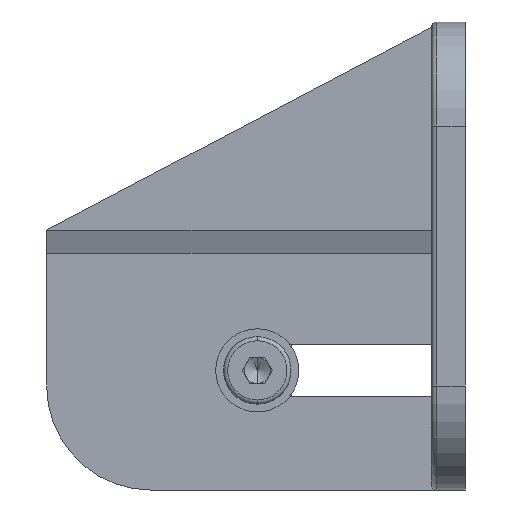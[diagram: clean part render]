
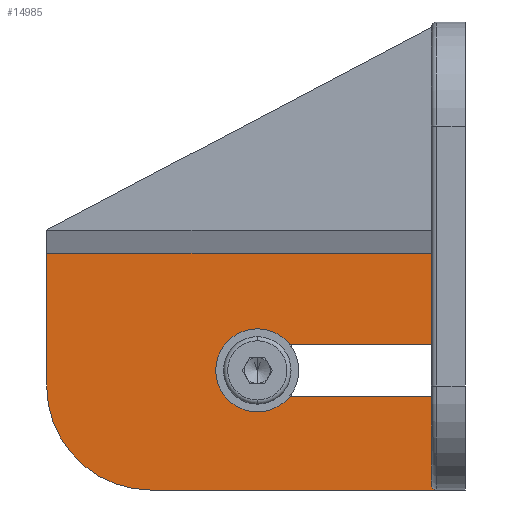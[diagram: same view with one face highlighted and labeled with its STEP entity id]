
A CAD part, left-side view. The second image highlights one B-rep face of the part: STEP entity #14985.
In plain terms, the highlighted planar face has unit normal (-1, 0, 0).
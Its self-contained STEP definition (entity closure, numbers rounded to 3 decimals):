
#88 = DIRECTION ( 'NONE',  ( 1., 0., 0. ) ) ;
#159 = CARTESIAN_POINT ( 'NONE',  ( 616.68, 833.023, 1222.533 ) ) ;
#297 = EDGE_CURVE ( 'NONE', #1584, #11723, #13818, .T. ) ;
#353 = DIRECTION ( 'NONE',  ( 0., -1., 0. ) ) ;
#521 = ORIENTED_EDGE ( 'NONE', *, *, #11757, .F. ) ;
#764 = CIRCLE ( 'NONE', #9571, 20. ) ;
#775 = EDGE_CURVE ( 'NONE', #2598, #11670, #764, .T. ) ;
#873 = FACE_OUTER_BOUND ( 'NONE', #8960, .T. ) ;
#899 = VERTEX_POINT ( 'NONE', #8142 ) ;
#995 = DIRECTION ( 'NONE',  ( 0., 0., -1. ) ) ;
#1131 = CARTESIAN_POINT ( 'NONE',  ( 616.68, 866.523, 1249.533 ) ) ;
#1161 = CARTESIAN_POINT ( 'NONE',  ( 616.68, 866.523, 1244.533 ) ) ;
#1182 = CARTESIAN_POINT ( 'NONE',  ( 616.68, 832.023, 1221.533 ) ) ;
#1361 = ORIENTED_EDGE ( 'NONE', *, *, #297, .T. ) ;
#1584 = VERTEX_POINT ( 'NONE', #1182 ) ;
#1623 = EDGE_CURVE ( 'NONE', #899, #4752, #3718, .T. ) ;
#1769 = DIRECTION ( 'NONE',  ( 0., 1., 0. ) ) ;
#2298 = CARTESIAN_POINT ( 'NONE',  ( 616.68, 833.023, 1249.533 ) ) ;
#2598 = VERTEX_POINT ( 'NONE', #11117 ) ;
#3064 = EDGE_CURVE ( 'NONE', #15265, #899, #9963, .T. ) ;
#3373 = DIRECTION ( 'NONE',  ( -1., 0., 0. ) ) ;
#3686 = CIRCLE ( 'NONE', #10914, 5. ) ;
#3718 = LINE ( 'NONE', #8477, #13407 ) ;
#3841 = VECTOR ( 'NONE', #10859, 1000. ) ;
#4060 = LINE ( 'NONE', #6114, #3841 ) ;
#4264 = CARTESIAN_POINT ( 'NONE',  ( 616.68, 887.023, 1241.533 ) ) ;
#4329 = CARTESIAN_POINT ( 'NONE',  ( 616.68, 907.023, 1267.033 ) ) ;
#4427 = EDGE_CURVE ( 'NONE', #8631, #13504, #3686, .T. ) ;
#4752 = VERTEX_POINT ( 'NONE', #15284 ) ;
#4937 = CARTESIAN_POINT ( 'NONE',  ( 616.68, 832.023, 1222.533 ) ) ;
#5054 = CARTESIAN_POINT ( 'NONE',  ( 616.68, 830.523, 1244.283 ) ) ;
#5081 = VECTOR ( 'NONE', #353, 1000. ) ;
#5174 = ORIENTED_EDGE ( 'NONE', *, *, #14887, .F. ) ;
#5181 = ORIENTED_EDGE ( 'NONE', *, *, #4427, .F. ) ;
#5465 = LINE ( 'NONE', #7474, #11767 ) ;
#5495 = LINE ( 'NONE', #11685, #6874 ) ;
#5693 = PLANE ( 'NONE',  #14508 ) ;
#5734 = AXIS2_PLACEMENT_3D ( 'NONE', #9432, #14225, #15163 ) ;
#5753 = CARTESIAN_POINT ( 'NONE',  ( 616.68, 871.523, 1244.533 ) ) ;
#6114 = CARTESIAN_POINT ( 'NONE',  ( 616.68, 907.023, 1241.533 ) ) ;
#6315 = DIRECTION ( 'NONE',  ( 0., 1., 0. ) ) ;
#6874 = VECTOR ( 'NONE', #12725, 1000. ) ;
#7086 = DIRECTION ( 'NONE',  ( 0., 1., 0. ) ) ;
#7111 = CARTESIAN_POINT ( 'NONE',  ( 616.68, 833.023, 1239.533 ) ) ;
#7193 = VECTOR ( 'NONE', #7086, 1000. ) ;
#7474 = CARTESIAN_POINT ( 'NONE',  ( 616.68, 832.023, 1221.533 ) ) ;
#7619 = ORIENTED_EDGE ( 'NONE', *, *, #3064, .F. ) ;
#7627 = CARTESIAN_POINT ( 'NONE',  ( 616.68, 866.523, 1239.533 ) ) ;
#8142 = CARTESIAN_POINT ( 'NONE',  ( 616.68, 833.023, 1267.033 ) ) ;
#8278 = CARTESIAN_POINT ( 'NONE',  ( 616.68, 887.023, 1221.533 ) ) ;
#8419 = ORIENTED_EDGE ( 'NONE', *, *, #10301, .F. ) ;
#8477 = CARTESIAN_POINT ( 'NONE',  ( 616.68, 833.023, 1267.033 ) ) ;
#8631 = VERTEX_POINT ( 'NONE', #5753 ) ;
#8730 = CIRCLE ( 'NONE', #5734, 5. ) ;
#8954 = DIRECTION ( 'NONE',  ( 0., 0., -1. ) ) ;
#8960 = EDGE_LOOP ( 'NONE', ( #5174, #13593, #7619, #521, #14732, #8419, #1361, #15100, #13006, #5181, #14815 ) ) ;
#9221 = VECTOR ( 'NONE', #8954, 1000. ) ;
#9344 = DIRECTION ( 'NONE',  ( 0., 0., 1. ) ) ;
#9432 = CARTESIAN_POINT ( 'NONE',  ( 616.68, 866.523, 1244.533 ) ) ;
#9571 = AXIS2_PLACEMENT_3D ( 'NONE', #4264, #14706, #9975 ) ;
#9963 = LINE ( 'NONE', #4329, #5081 ) ;
#9970 = VERTEX_POINT ( 'NONE', #7111 ) ;
#9975 = DIRECTION ( 'NONE',  ( 0., 1., 0. ) ) ;
#9978 = CARTESIAN_POINT ( 'NONE',  ( 616.68, 833.023, 1239.533 ) ) ;
#10301 = EDGE_CURVE ( 'NONE', #1584, #11670, #5465, .T. ) ;
#10859 = DIRECTION ( 'NONE',  ( 0., 0., 1. ) ) ;
#10914 = AXIS2_PLACEMENT_3D ( 'NONE', #1161, #3373, #9344 ) ;
#11023 = EDGE_CURVE ( 'NONE', #13504, #9970, #5495, .T. ) ;
#11117 = CARTESIAN_POINT ( 'NONE',  ( 616.68, 907.023, 1241.533 ) ) ;
#11577 = LINE ( 'NONE', #2298, #7193 ) ;
#11644 = CARTESIAN_POINT ( 'NONE',  ( 616.68, 907.023, 1267.033 ) ) ;
#11670 = VERTEX_POINT ( 'NONE', #8278 ) ;
#11685 = CARTESIAN_POINT ( 'NONE',  ( 616.68, 866.523, 1239.533 ) ) ;
#11723 = VERTEX_POINT ( 'NONE', #159 ) ;
#11757 = EDGE_CURVE ( 'NONE', #2598, #15265, #4060, .T. ) ;
#11767 = VECTOR ( 'NONE', #1769, 1000. ) ;
#12072 = AXIS2_PLACEMENT_3D ( 'NONE', #4937, #88, #995 ) ;
#12725 = DIRECTION ( 'NONE',  ( 0., -1., 0. ) ) ;
#13006 = ORIENTED_EDGE ( 'NONE', *, *, #11023, .F. ) ;
#13407 = VECTOR ( 'NONE', #14318, 1000. ) ;
#13439 = VERTEX_POINT ( 'NONE', #1131 ) ;
#13504 = VERTEX_POINT ( 'NONE', #7627 ) ;
#13593 = ORIENTED_EDGE ( 'NONE', *, *, #1623, .F. ) ;
#13818 = CIRCLE ( 'NONE', #12072, 1. ) ;
#14225 = DIRECTION ( 'NONE',  ( -1., 0., 0. ) ) ;
#14318 = DIRECTION ( 'NONE',  ( 0., 0., -1. ) ) ;
#14508 = AXIS2_PLACEMENT_3D ( 'NONE', #5054, #14710, #6315 ) ;
#14706 = DIRECTION ( 'NONE',  ( -1., 0., 0. ) ) ;
#14710 = DIRECTION ( 'NONE',  ( -1., 0., 0. ) ) ;
#14732 = ORIENTED_EDGE ( 'NONE', *, *, #775, .T. ) ;
#14815 = ORIENTED_EDGE ( 'NONE', *, *, #15257, .F. ) ;
#14887 = EDGE_CURVE ( 'NONE', #4752, #13439, #11577, .T. ) ;
#14941 = LINE ( 'NONE', #9978, #9221 ) ;
#14985 = ADVANCED_FACE ( 'NONE', ( #873 ), #5693, .T. ) ;
#15100 = ORIENTED_EDGE ( 'NONE', *, *, #15106, .F. ) ;
#15106 = EDGE_CURVE ( 'NONE', #9970, #11723, #14941, .T. ) ;
#15163 = DIRECTION ( 'NONE',  ( 0., 0., 1. ) ) ;
#15257 = EDGE_CURVE ( 'NONE', #13439, #8631, #8730, .T. ) ;
#15265 = VERTEX_POINT ( 'NONE', #11644 ) ;
#15284 = CARTESIAN_POINT ( 'NONE',  ( 616.68, 833.023, 1249.533 ) ) ;
